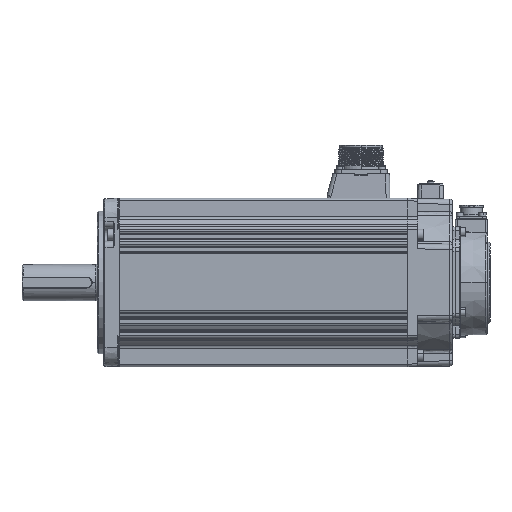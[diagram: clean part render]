
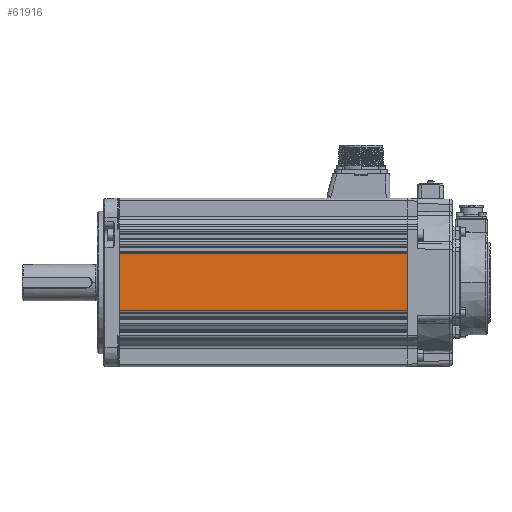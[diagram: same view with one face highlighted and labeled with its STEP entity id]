
A CAD part, top view. The second image highlights one B-rep face of the part: STEP entity #61916.
In plain terms, the highlighted planar face has unit normal (0, 0, 1).
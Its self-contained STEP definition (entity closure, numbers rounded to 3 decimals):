
#4410 = LINE ( 'NONE', #42848, #74831 ) ;
#5052 = ORIENTED_EDGE ( 'NONE', *, *, #34473, .T. ) ;
#6201 = DIRECTION ( 'NONE',  ( 0., -1., 0. ) ) ;
#7419 = ORIENTED_EDGE ( 'NONE', *, *, #111882, .F. ) ;
#8508 = CARTESIAN_POINT ( 'NONE',  ( -111.25, 22., 65. ) ) ;
#11715 = VERTEX_POINT ( 'NONE', #12312 ) ;
#12312 = CARTESIAN_POINT ( 'NONE',  ( 111.25, -22., 65. ) ) ;
#17693 = DIRECTION ( 'NONE',  ( -1., 0., 0. ) ) ;
#18778 = CARTESIAN_POINT ( 'NONE',  ( -111.25, -22., 65. ) ) ;
#20219 = VERTEX_POINT ( 'NONE', #106963 ) ;
#27654 = DIRECTION ( 'NONE',  ( 0., 0., -1. ) ) ;
#31845 = VECTOR ( 'NONE', #6201, 1000. ) ;
#34473 = EDGE_CURVE ( 'NONE', #20219, #80992, #4410, .T. ) ;
#37027 = FACE_OUTER_BOUND ( 'NONE', #85134, .T. ) ;
#42691 = CARTESIAN_POINT ( 'NONE',  ( 111.75, -22., 65. ) ) ;
#42848 = CARTESIAN_POINT ( 'NONE',  ( 111.75, 22., 65. ) ) ;
#45317 = VECTOR ( 'NONE', #101386, 1000. ) ;
#47005 = VERTEX_POINT ( 'NONE', #18778 ) ;
#48622 = ORIENTED_EDGE ( 'NONE', *, *, #50460, .F. ) ;
#50460 = EDGE_CURVE ( 'NONE', #47005, #80992, #72194, .T. ) ;
#55139 = CARTESIAN_POINT ( 'NONE',  ( 111.75, -43., 65. ) ) ;
#58142 = ORIENTED_EDGE ( 'NONE', *, *, #65889, .T. ) ;
#61916 = ADVANCED_FACE ( 'NONE', ( #37027 ), #80812, .F. ) ;
#65889 = EDGE_CURVE ( 'NONE', #47005, #11715, #96413, .T. ) ;
#72181 = VECTOR ( 'NONE', #87643, 1000. ) ;
#72194 = LINE ( 'NONE', #99668, #45317 ) ;
#74831 = VECTOR ( 'NONE', #105374, 1000. ) ;
#77388 = AXIS2_PLACEMENT_3D ( 'NONE', #55139, #27654, #17693 ) ;
#80812 = PLANE ( 'NONE',  #77388 ) ;
#80992 = VERTEX_POINT ( 'NONE', #8508 ) ;
#85134 = EDGE_LOOP ( 'NONE', ( #7419, #5052, #48622, #58142 ) ) ;
#86863 = LINE ( 'NONE', #87439, #31845 ) ;
#87439 = CARTESIAN_POINT ( 'NONE',  ( 111.25, -43., 65. ) ) ;
#87643 = DIRECTION ( 'NONE',  ( 1., 0., 0. ) ) ;
#96413 = LINE ( 'NONE', #42691, #72181 ) ;
#99668 = CARTESIAN_POINT ( 'NONE',  ( -111.25, -43., 65. ) ) ;
#101386 = DIRECTION ( 'NONE',  ( 0., 1., 0. ) ) ;
#105374 = DIRECTION ( 'NONE',  ( -1., 0., 0. ) ) ;
#106963 = CARTESIAN_POINT ( 'NONE',  ( 111.25, 22., 65. ) ) ;
#111882 = EDGE_CURVE ( 'NONE', #20219, #11715, #86863, .T. ) ;
